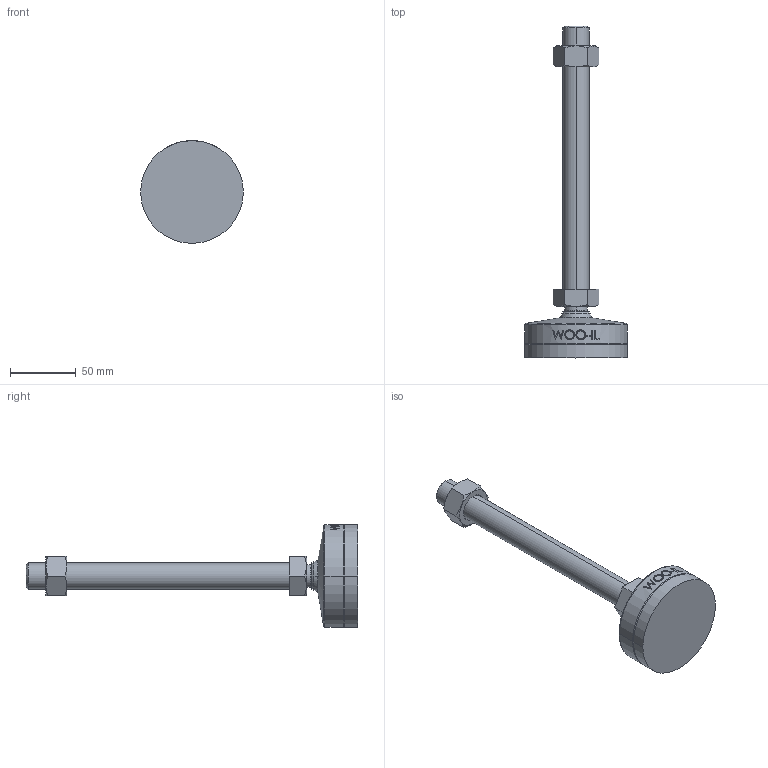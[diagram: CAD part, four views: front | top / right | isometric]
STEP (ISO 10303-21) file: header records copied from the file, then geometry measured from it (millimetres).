
FILE_DESCRIPTION (( 'STEP AP214' ), '1' );
FILE_NAME ('MFNR78-M20-200.step', '2021-02-22T09:08:52', ( '' ), ( '' ), 'SwSTEP 2.0', 'SolidWorks 2019', '' );
FILE_SCHEMA (( 'AUTOMOTIVE_DESIGN' ));
Length unit declared in the file: millimetre
Products named in the file (2): MFNR78-M20-200
Bounding box: 78 x 252 x 78 mm (x, y, z)
Volume: 217020.3 mm3; surface area: 35105.1 mm2
Topology: 2 solids, 2 shells, 105 faces, 249 edges, 160 vertices
Faces by surface type: plane 47, cone 18, cylinder 18, bspline 16, torus 4, sphere 2
Entity records: 4561 total; most frequent: CARTESIAN_POINT 2204, ORIENTED_EDGE 498, DIRECTION 437, EDGE_CURVE 249, AXIS2_PLACEMENT_3D 167, VERTEX_POINT 160, EDGE_LOOP 119, FACE_OUTER_BOUND 105
